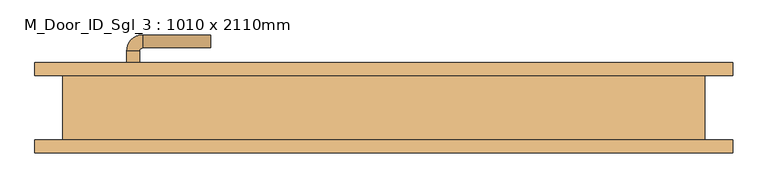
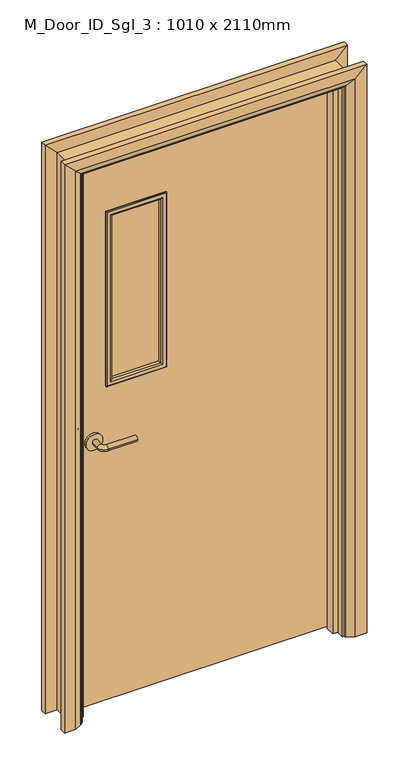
"""IFC4 building model written with IfcOpenShell, lengths in millimetres: door geometry, M_Door_ID_Sgl_3 : 1010 x 2110mm."""

from ifc_helpers import new_model, si_unit, point, frame, frame_2d, origin, place, context, project, spatial, polyline, circle_curve, ellipse_curve, trimmed, segment, composite_curve, outline, extrude, faceted_brep, source, transform, mapped, element, save
from ifc_brep_helpers import plane_surface, cylinder_surface, revolved_surface, advanced_brep


def m_door_id_sgl_3_1010_x_2110mm_8d6b14ea(model_context):
    return source(origin(), model_context, "Body", "SolidModel", [
        advanced_brep(
        [(-398.0, 4.0, 1000.0), (-378.0, 4.0, 1000.0), (-378.0, -26.0, 1000.0), (-398.0, -26.0, 1000.0), (-373.0, -31.0, 1000.0), (-373.0, -51.0, 1000.0), (-268.0, -51.0, 1000.0), (-268.0, -31.0, 1000.0)],
        [
            (0, 1, circle_curve(frame((-388.0, 4.0, 1000.0), z_axis=(0.0, 1.0, 0.0), x_axis=(1.0, 0.0, 0.0)), 10.0)),
            (1, 0, circle_curve(frame((-388.0, 4.0, 1000.0), z_axis=(0.0, 1.0, 0.0), x_axis=(1.0, 0.0, 0.0)), 10.0)),
            (1, 2),
            (2, 3, circle_curve(frame((-388.0, -26.0, 1000.0), z_axis=(0.0, 1.0, 0.0), x_axis=(1.0, 0.0, 0.0)), 10.0)),
            (3, 0),
            (3, 2, circle_curve(frame((-388.0, -26.0, 1000.0), z_axis=(0.0, 1.0, 0.0), x_axis=(1.0, 0.0, 0.0)), 10.0)),
            (4, 5, circle_curve(frame((-373.0, -41.0, 1000.0), z_axis=(-1.0, 0.0, 0.0), x_axis=(0.0, 1.0, 0.0)), 10.0)),
            (5, 3, circle_curve(frame((-373.0, -26.0, 1000.0), z_axis=(0.0, 0.0, -1.0), x_axis=(-1.0, 0.0, 0.0)), 25.0)),
            (2, 4, circle_curve(frame((-373.0, -26.0, 1000.0), z_axis=(0.0, 0.0, 1.0), x_axis=(-1.0, 0.0, 0.0)), 5.0)),
            (5, 4, circle_curve(frame((-373.0, -41.0, 1000.0), z_axis=(-1.0, 0.0, 0.0), x_axis=(0.0, 1.0, 0.0)), 10.0)),
            (6, 7, circle_curve(frame((-268.0, -41.0, 1000.0), z_axis=(1.0, 0.0, 0.0), x_axis=(0.0, 1.0, 0.0)), 10.0)),
            (7, 6, circle_curve(frame((-268.0, -41.0, 1000.0), z_axis=(1.0, 0.0, 0.0), x_axis=(0.0, 1.0, 0.0)), 10.0)),
            (4, 7),
            (6, 5),
        ],
        [
            plane_surface(frame((-388.0, 4.0, 1000.0), z_axis=(0.0, 1.0, 0.0), x_axis=(0.0, 0.0, 1.0))),
            cylinder_surface(frame((-388.0, 4.0, 1000.0), z_axis=(0.0, 1.0, 0.0), x_axis=(1.0, 0.0, 0.0)), 10.0),
            revolved_surface(trimmed(ellipse_curve(frame((-388.0, -26.0, 1000.0), z_axis=(0.0, -1.0, 0.0), x_axis=(1.0, 0.0, 0.0)), 10.0, 10.0), [point((-398.0, -26.0, 1000.0))], [point((-378.0, -26.0, 1000.0))], True, "CARTESIAN"), (-373.0, -26.0, 1000.0), (0.0, 0.0, -1.0)),
            revolved_surface(trimmed(ellipse_curve(frame((-388.0, -26.0, 1000.0), z_axis=(0.0, -1.0, 0.0), x_axis=(1.0, 0.0, 0.0)), 10.0, 10.0), [point((-378.0, -26.0, 1000.0))], [point((-398.0, -26.0, 1000.0))], True, "CARTESIAN"), (-373.0, -26.0, 1000.0), (0.0, 0.0, -1.0)),
            plane_surface(frame((-268.0, -41.0, 1000.0), z_axis=(1.0, 0.0, 0.0), x_axis=(0.0, 0.0, 1.0))),
            cylinder_surface(frame((-373.0, -41.0, 1000.0), z_axis=(-1.0, 0.0, 0.0), x_axis=(0.0, 1.0, 0.0)), 10.0),
        ],
        [
            (0, [[1, 2]]),
            (1, [[3, 4, 5, -2]]),
            (1, [[-5, 6, -3, -1]]),
            (2, [[7, 8, -4, 9]]),
            (3, [[10, -9, -6, -8]]),
            (4, [[11, 12]]),
            (5, [[13, -11, 14, -7]]),
            (5, [[-14, -12, -13, -10]]),
        ],
    ),
        extrude(outline(composite_curve([segment(trimmed(circle_curve(frame_2d((1000.0, -390.5)), 30.0), [point((1000.0, -420.5))], [point((1000.0, -360.5))], False, "CARTESIAN"), True, "CONTINUOUS"), segment(trimmed(circle_curve(frame_2d((1000.0, -390.5)), 30.0), [point((1000.0, -360.5))], [point((1000.0, -420.5))], False, "CARTESIAN"), True, "CONTINUOUS")], self_intersect=False)), frame((0.0, 4.0, 0.0), z_axis=(0.0, 1.0, 0.0), x_axis=(0.0, 0.0, 1.0)), (0.0, 0.0, 1.0), 8.0),
        advanced_brep(
        [(-398.0, 58.0, 1000.0), (-378.0, 58.0, 1000.0), (-398.0, 88.0, 1000.0), (-378.0, 88.0, 1000.0), (-373.0, 93.0, 1000.0), (-373.0, 113.0, 1000.0), (-268.0, 113.0, 1000.0), (-268.0, 93.0, 1000.0)],
        [
            (0, 1, circle_curve(frame((-388.0, 58.0, 1000.0), z_axis=(0.0, -1.0, 0.0), x_axis=(1.0, 0.0, 0.0)), 10.0)),
            (1, 0, circle_curve(frame((-388.0, 58.0, 1000.0), z_axis=(0.0, -1.0, 0.0), x_axis=(1.0, 0.0, 0.0)), 10.0)),
            (0, 2),
            (2, 3, circle_curve(frame((-388.0, 88.0, 1000.0), z_axis=(0.0, -1.0, 0.0), x_axis=(1.0, 0.0, 0.0)), 10.0)),
            (3, 1),
            (3, 2, circle_curve(frame((-388.0, 88.0, 1000.0), z_axis=(0.0, -1.0, 0.0), x_axis=(1.0, 0.0, 0.0)), 10.0)),
            (4, 3, circle_curve(frame((-373.0, 88.0, 1000.0), z_axis=(0.0, 0.0, 1.0), x_axis=(-1.0, 0.0, 0.0)), 5.0)),
            (2, 5, circle_curve(frame((-373.0, 88.0, 1000.0), z_axis=(0.0, 0.0, -1.0), x_axis=(-1.0, 0.0, 0.0)), 25.0)),
            (5, 4, circle_curve(frame((-373.0, 103.0, 1000.0), z_axis=(-1.0, 0.0, 0.0), x_axis=(0.0, -1.0, 0.0)), 10.0)),
            (4, 5, circle_curve(frame((-373.0, 103.0, 1000.0), z_axis=(-1.0, 0.0, 0.0), x_axis=(0.0, -1.0, 0.0)), 10.0)),
            (6, 7, circle_curve(frame((-268.0, 103.0, 1000.0), z_axis=(1.0, 0.0, 0.0), x_axis=(0.0, -1.0, 0.0)), 10.0)),
            (7, 6, circle_curve(frame((-268.0, 103.0, 1000.0), z_axis=(1.0, 0.0, 0.0), x_axis=(0.0, -1.0, 0.0)), 10.0)),
            (5, 6),
            (7, 4),
        ],
        [
            plane_surface(frame((-388.0, 58.0, 1000.0), z_axis=(0.0, -1.0, 0.0), x_axis=(0.0, 0.0, 1.0))),
            cylinder_surface(frame((-388.0, 58.0, 1000.0), z_axis=(0.0, -1.0, 0.0), x_axis=(1.0, 0.0, 0.0)), 10.0),
            revolved_surface(trimmed(ellipse_curve(frame((-388.0, 88.0, 1000.0), z_axis=(0.0, -1.0, 0.0), x_axis=(1.0, 0.0, 0.0)), 10.0, 10.0), [point((-398.0, 88.0, 1000.0))], [point((-378.0, 88.0, 1000.0))], True, "CARTESIAN"), (-373.0, 88.0, 1000.0), (0.0, 0.0, -1.0)),
            revolved_surface(trimmed(ellipse_curve(frame((-388.0, 88.0, 1000.0), z_axis=(0.0, -1.0, 0.0), x_axis=(1.0, 0.0, 0.0)), 10.0, 10.0), [point((-378.0, 88.0, 1000.0))], [point((-398.0, 88.0, 1000.0))], True, "CARTESIAN"), (-373.0, 88.0, 1000.0), (0.0, 0.0, -1.0)),
            plane_surface(frame((-268.0, 103.0, 1000.0), z_axis=(1.0, 0.0, 0.0), x_axis=(0.0, 0.0, 1.0))),
            cylinder_surface(frame((-373.0, 103.0, 1000.0), z_axis=(-1.0, 0.0, 0.0), x_axis=(0.0, -1.0, 0.0)), 10.0),
        ],
        [
            (0, [[1, 2]]),
            (1, [[-1, 3, 4, 5]]),
            (1, [[-2, -5, 6, -3]]),
            (2, [[7, -4, 8, 9]]),
            (3, [[-8, -6, -7, 10]]),
            (4, [[11, 12]]),
            (5, [[-9, 13, -12, 14]]),
            (5, [[-10, -14, -11, -13]]),
        ],
    ),
        extrude(outline(composite_curve([segment(trimmed(circle_curve(frame_2d((1000.0, -390.5)), 30.0), [point((1000.0, -420.5))], [point((1000.0, -360.5))], False, "CARTESIAN"), True, "CONTINUOUS"), segment(trimmed(circle_curve(frame_2d((1000.0, -390.5)), 30.0), [point((1000.0, -360.5))], [point((1000.0, -420.5))], False, "CARTESIAN"), True, "CONTINUOUS")], self_intersect=False)), frame((0.0, 50.0, 0.0), z_axis=(0.0, 1.0, 0.0), x_axis=(0.0, 0.0, 1.0)), (0.0, 0.0, 1.0), 8.0),
        extrude(outline(polyline([(2068.0, -463.0), (8.0, -463.0), (8.0, 463.0), (2068.0, 463.0), (2068.0, -463.0)]), holes=[polyline([(1843.0, -138.0), (1200.0, -138.0), (1200.0, -338.0), (1843.0, -338.0), (1843.0, -138.0)])]), frame((0.0, 12.0, 0.0), z_axis=(0.0, 1.0, 0.0), x_axis=(0.0, 0.0, 1.0)), (0.0, 0.0, 1.0), 38.0),
        faceted_brep([(-465.0, 50.0, 0.0), (-465.0, -50.0, 0.0), (-497.0, -50.0, 0.0), (-497.0, 50.0, 0.0), (-465.0, 50.0, 2070.0), (-465.0, -50.0, 2070.0), (-497.0, -50.0, 2102.0), (-497.0, 50.0, 2102.0), (465.0, 50.0, 0.0), (497.0, 50.0, 0.0), (497.0, -50.0, 0.0), (465.0, -50.0, 0.0), (465.0, 50.0, 2070.0), (497.0, 50.0, 2102.0), (497.0, -50.0, 2102.0), (465.0, -50.0, 2070.0)], [[[0, 1, 2, 3]], [[1, 0, 4, 5]], [[2, 1, 5, 6]], [[3, 2, 6, 7]], [[0, 3, 7, 4]], [[8, 9, 10, 11]], [[12, 13, 9, 8]], [[13, 14, 10, 9]], [[14, 15, 11, 10]], [[15, 12, 8, 11]], [[5, 4, 12, 15]], [[6, 5, 15, 14]], [[7, 6, 14, 13]], [[4, 7, 13, 12]]]),
        advanced_brep(
        [(-540.0, -70.0, 0.0), (-540.0, -50.0, 0.0), (-470.0, -50.0, 0.0), (-474.0, -56.0, 0.0), (-500.0, -70.0, 0.0), (-540.0, -70.0, 2145.0), (-540.0, -50.0, 2145.0), (-470.0, -50.0, 2075.0), (-474.0, -56.0, 2079.0), (-500.0, -70.0, 2105.0), (540.0, -70.0, 0.0), (500.0, -70.0, 0.0), (474.0, -56.0, 0.0), (470.0, -50.0, 0.0), (540.0, -50.0, 0.0), (540.0, -70.0, 2145.0), (500.0, -70.0, 2105.0), (474.0, -56.0, 2079.0), (470.0, -50.0, 2075.0), (540.0, -50.0, 2145.0)],
        [
            (0, 1),
            (1, 2),
            (2, 3, circle_curve(frame((-478.0, -49.0, 0.0), z_axis=(0.0, 0.0, -1.0), x_axis=(-1.0, 0.0, 0.0)), 8.0622577)),
            (3, 4),
            (4, 0),
            (0, 5),
            (5, 6),
            (6, 1),
            (6, 7),
            (7, 2),
            (7, 8, ellipse_curve(frame((-478.0, -49.0, 2083.0), z_axis=(-0.7071067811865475, 0.0, -0.7071067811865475), x_axis=(0.7071067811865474, 0.0, -0.7071067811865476)), 11.4017543, 8.0622577)),
            (8, 3),
            (8, 9),
            (9, 4),
            (9, 5),
            (10, 11),
            (11, 12),
            (12, 13, circle_curve(frame((478.0, -49.0, 0.0), z_axis=(0.0, 0.0, -1.0), x_axis=(1.0, 0.0, 0.0)), 8.0622577)),
            (13, 14),
            (14, 10),
            (15, 16),
            (16, 11),
            (10, 15),
            (16, 17),
            (17, 12),
            (17, 18, ellipse_curve(frame((478.0, -49.0, 2083.0), z_axis=(0.7071067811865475, 0.0, -0.7071067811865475), x_axis=(0.7071067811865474, 0.0, 0.7071067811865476)), 11.4017543, 8.0622577)),
            (18, 13),
            (18, 19),
            (19, 14),
            (19, 15),
            (5, 15),
            (19, 6),
            (18, 7),
            (17, 8),
            (16, 9),
        ],
        [
            plane_surface(frame((-470.0, -122.8010989, 0.0), z_axis=(0.0, 0.0, -1.0), x_axis=(1.0, 0.0, 0.0))),
            plane_surface(frame((-540.0, -70.0, 0.0), z_axis=(-1.0, 0.0, 0.0), x_axis=(0.0, 0.0, 1.0))),
            plane_surface(frame((-540.0, -50.0, 0.0), z_axis=(0.0, 1.0, 0.0), x_axis=(0.0, 0.0, 1.0))),
            cylinder_surface(frame((-478.0, -49.0, 0.0), z_axis=(0.0, 0.0, -1.0), x_axis=(-1.0, 0.0, 0.0)), 8.0622577),
            plane_surface(frame((-474.0, -56.0, 0.0), z_axis=(0.4740998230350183, -0.8804710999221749, 0.0), x_axis=(0.0, 0.0, 1.0))),
            plane_surface(frame((-500.0, -70.0, 0.0), z_axis=(0.0, -1.0, 0.0), x_axis=(0.0, 0.0, 1.0))),
            plane_surface(frame((470.0, -122.8010989, 0.0), z_axis=(0.0, 0.0, -1.0), x_axis=(-1.0, 0.0, 0.0))),
            plane_surface(frame((500.0, -70.0, 2105.0), z_axis=(0.0, -1.0, 0.0), x_axis=(0.0, 0.0, -1.0))),
            plane_surface(frame((474.0, -56.0, 2079.0), z_axis=(-0.4740998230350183, -0.8804710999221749, 0.0), x_axis=(0.0, 0.0, -1.0))),
            cylinder_surface(frame((478.0, -49.0, 2075.0), z_axis=(0.0, 0.0, 1.0), x_axis=(1.0, 0.0, 0.0)), 8.0622577),
            plane_surface(frame((540.0, -50.0, 2145.0), z_axis=(0.0, 1.0, 0.0), x_axis=(0.0, 0.0, -1.0))),
            plane_surface(frame((540.0, -70.0, 2145.0), z_axis=(1.0, 0.0, 0.0), x_axis=(0.0, 0.0, -1.0))),
            plane_surface(frame((-540.0, -70.0, 2145.0), z_axis=(0.0, 0.0, 1.0), x_axis=(1.0, 0.0, 0.0))),
            plane_surface(frame((-540.0, -50.0, 2145.0), z_axis=(0.0, 1.0, 0.0), x_axis=(1.0, 0.0, 0.0))),
            cylinder_surface(frame((-470.0, -49.0, 2083.0), z_axis=(-1.0, 0.0, 0.0), x_axis=(0.0, 0.0, 1.0)), 8.0622577),
            plane_surface(frame((-474.0, -56.0, 2079.0), z_axis=(0.0, -0.8804710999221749, -0.4740998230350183), x_axis=(1.0, 0.0, 0.0))),
            plane_surface(frame((-500.0, -70.0, 2105.0), z_axis=(0.0, -1.0, 0.0), x_axis=(1.0, 0.0, 0.0))),
        ],
        [
            (0, [[1, 2, 3, 4, 5]]),
            (1, [[-1, 6, 7, 8]]),
            (2, [[-2, -8, 9, 10]]),
            (3, [[-3, -10, 11, 12]]),
            (4, [[-4, -12, 13, 14]]),
            (5, [[-5, -14, 15, -6]]),
            (6, [[16, 17, 18, 19, 20]]),
            (7, [[21, 22, -16, 23]]),
            (8, [[24, 25, -17, -22]]),
            (9, [[26, 27, -18, -25]]),
            (10, [[28, 29, -19, -27]]),
            (11, [[30, -23, -20, -29]]),
            (12, [[-7, 31, -30, 32]]),
            (13, [[-9, -32, -28, 33]]),
            (14, [[-11, -33, -26, 34]]),
            (15, [[-13, -34, -24, 35]]),
            (16, [[-15, -35, -21, -31]]),
        ],
    ),
        advanced_brep(
        [(-540.0, 70.0, 0.0), (-500.0, 70.0, 0.0), (-474.0, 56.0, 0.0), (-470.0, 50.0, 0.0), (-540.0, 50.0, 0.0), (-540.0, 70.0, 2145.0), (-500.0, 70.0, 2105.0), (-474.0, 56.0, 2079.0), (-470.0, 50.0, 2075.0), (-540.0, 50.0, 2145.0), (540.0, 70.0, 0.0), (540.0, 50.0, 0.0), (470.0, 50.0, 0.0), (474.0, 56.0, 0.0), (500.0, 70.0, 0.0), (540.0, 70.0, 2145.0), (540.0, 50.0, 2145.0), (470.0, 50.0, 2075.0), (474.0, 56.0, 2079.0), (500.0, 70.0, 2105.0)],
        [
            (0, 1),
            (1, 2),
            (2, 3, circle_curve(frame((-478.0, 49.0, 0.0), z_axis=(0.0, 0.0, -1.0), x_axis=(-1.0, 0.0, 0.0)), 8.0622577)),
            (3, 4),
            (4, 0),
            (0, 5),
            (5, 6),
            (6, 1),
            (6, 7),
            (7, 2),
            (7, 8, ellipse_curve(frame((-478.0, 49.0, 2083.0), z_axis=(-0.7071067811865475, 0.0, -0.7071067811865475), x_axis=(0.7071067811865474, 0.0, -0.7071067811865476)), 11.4017543, 8.0622577)),
            (8, 3),
            (8, 9),
            (9, 4),
            (9, 5),
            (10, 11),
            (11, 12),
            (12, 13, circle_curve(frame((478.0, 49.0, 0.0), z_axis=(0.0, 0.0, -1.0), x_axis=(1.0, 0.0, 0.0)), 8.0622577)),
            (13, 14),
            (14, 10),
            (15, 16),
            (16, 11),
            (10, 15),
            (16, 17),
            (17, 12),
            (17, 18, ellipse_curve(frame((478.0, 49.0, 2083.0), z_axis=(0.7071067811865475, 0.0, -0.7071067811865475), x_axis=(0.7071067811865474, 0.0, 0.7071067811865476)), 11.4017543, 8.0622577)),
            (18, 13),
            (18, 19),
            (19, 14),
            (19, 15),
            (5, 15),
            (19, 6),
            (18, 7),
            (17, 8),
            (16, 9),
        ],
        [
            plane_surface(frame((-470.0, -22.8010989, 0.0), z_axis=(0.0, 0.0, -1.0), x_axis=(1.0, 0.0, 0.0))),
            plane_surface(frame((-540.0, 70.0, 0.0), z_axis=(0.0, 1.0, 0.0), x_axis=(0.0, 0.0, 1.0))),
            plane_surface(frame((-500.0, 70.0, 0.0), z_axis=(0.4740998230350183, 0.8804710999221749, 0.0), x_axis=(0.0, 0.0, 1.0))),
            cylinder_surface(frame((-478.0, 49.0, 0.0), z_axis=(0.0, 0.0, -1.0), x_axis=(-1.0, 0.0, 0.0)), 8.0622577),
            plane_surface(frame((-470.0, 50.0, 0.0), z_axis=(0.0, -1.0, 0.0), x_axis=(0.0, 0.0, 1.0))),
            plane_surface(frame((-540.0, 50.0, 0.0), z_axis=(-1.0, 0.0, 0.0), x_axis=(0.0, 0.0, 1.0))),
            plane_surface(frame((470.0, -22.8010989, 0.0), z_axis=(0.0, 0.0, -1.0), x_axis=(-1.0, 0.0, 0.0))),
            plane_surface(frame((540.0, 50.0, 2145.0), z_axis=(1.0, 0.0, 0.0), x_axis=(0.0, 0.0, -1.0))),
            plane_surface(frame((470.0, 50.0, 2075.0), z_axis=(0.0, -1.0, 0.0), x_axis=(0.0, 0.0, -1.0))),
            cylinder_surface(frame((478.0, 49.0, 2075.0), z_axis=(0.0, 0.0, 1.0), x_axis=(1.0, 0.0, 0.0)), 8.0622577),
            plane_surface(frame((500.0, 70.0, 2105.0), z_axis=(-0.4740998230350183, 0.8804710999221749, 0.0), x_axis=(0.0, 0.0, -1.0))),
            plane_surface(frame((540.0, 70.0, 2145.0), z_axis=(0.0, 1.0, 0.0), x_axis=(0.0, 0.0, -1.0))),
            plane_surface(frame((-540.0, 70.0, 2145.0), z_axis=(0.0, 1.0, 0.0), x_axis=(1.0, 0.0, 0.0))),
            plane_surface(frame((-500.0, 70.0, 2105.0), z_axis=(0.0, 0.8804710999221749, -0.4740998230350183), x_axis=(1.0, 0.0, 0.0))),
            cylinder_surface(frame((-470.0, 49.0, 2083.0), z_axis=(-1.0, 0.0, 0.0), x_axis=(0.0, 0.0, 1.0)), 8.0622577),
            plane_surface(frame((-470.0, 50.0, 2075.0), z_axis=(0.0, -1.0, 0.0), x_axis=(1.0, 0.0, 0.0))),
            plane_surface(frame((-540.0, 50.0, 2145.0), z_axis=(0.0, 0.0, 1.0), x_axis=(1.0, 0.0, 0.0))),
        ],
        [
            (0, [[1, 2, 3, 4, 5]]),
            (1, [[-1, 6, 7, 8]]),
            (2, [[-2, -8, 9, 10]]),
            (3, [[-3, -10, 11, 12]]),
            (4, [[-4, -12, 13, 14]]),
            (5, [[-5, -14, 15, -6]]),
            (6, [[16, 17, 18, 19, 20]]),
            (7, [[21, 22, -16, 23]]),
            (8, [[24, 25, -17, -22]]),
            (9, [[26, 27, -18, -25]]),
            (10, [[28, 29, -19, -27]]),
            (11, [[30, -23, -20, -29]]),
            (12, [[-7, 31, -30, 32]]),
            (13, [[-9, -32, -28, 33]]),
            (14, [[-11, -33, -26, 34]]),
            (15, [[-13, -34, -24, 35]]),
            (16, [[-15, -35, -21, -31]]),
        ],
    ),
        extrude(outline(polyline([(0.0, -465.0), (0.0, -446.0), (2051.0, -446.0), (2051.0, 446.0), (0.0, 446.0), (0.0, 465.0), (2070.0, 465.0), (2070.0, -465.0), (0.0, -465.0)])), frame((0.0, -22.0, 0.0), z_axis=(0.0, 1.0, 0.0), x_axis=(0.0, 0.0, 1.0)), (0.0, 0.0, 1.0), 32.0),
        advanced_brep(
        [(-130.0, 54.0, 1851.0), (-130.0, 50.0, 1851.0), (-130.0, 50.0, 1192.0), (-130.0, 54.0, 1192.0), (-132.0, 56.0, 1849.0), (-132.0, 56.0, 1194.0), (-150.0, 51.0, 1831.0), (-145.0, 56.0, 1836.0), (-145.0, 56.0, 1207.0), (-150.0, 51.0, 1212.0), (-150.0, 40.0, 1831.0), (-150.0, 40.0, 1212.0), (-138.0, 50.0, 1843.0), (-138.0, 40.0, 1843.0), (-138.0, 40.0, 1200.0), (-138.0, 50.0, 1200.0), (-346.0, 50.0, 1192.0), (-346.0, 54.0, 1192.0), (-344.0, 56.0, 1194.0), (-331.0, 56.0, 1207.0), (-326.0, 51.0, 1212.0), (-326.0, 40.0, 1212.0), (-338.0, 40.0, 1200.0), (-338.0, 50.0, 1200.0), (-346.0, 50.0, 1851.0), (-346.0, 54.0, 1851.0), (-344.0, 56.0, 1849.0), (-331.0, 56.0, 1836.0), (-326.0, 51.0, 1831.0), (-326.0, 40.0, 1831.0), (-338.0, 40.0, 1843.0), (-338.0, 50.0, 1843.0)],
        [
            (0, 1),
            (1, 2),
            (2, 3),
            (3, 0),
            (4, 0, ellipse_curve(frame((-132.0, 54.0, 1849.0), z_axis=(0.7071067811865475, 0.0, -0.7071067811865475), x_axis=(0.7071067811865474, 0.0, 0.7071067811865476)), 2.8284271, 2.0)),
            (3, 5, ellipse_curve(frame((-132.0, 54.0, 1194.0), z_axis=(0.7071067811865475, 0.0, 0.7071067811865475), x_axis=(-0.7071067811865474, 0.0, 0.7071067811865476)), 2.8284271, 2.0)),
            (5, 4),
            (6, 7, ellipse_curve(frame((-145.0, 51.0, 1836.0), z_axis=(0.7071067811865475, 0.0, -0.7071067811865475), x_axis=(0.7071067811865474, 0.0, 0.7071067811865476)), 7.0710678, 5.0)),
            (7, 8),
            (8, 9, ellipse_curve(frame((-145.0, 51.0, 1207.0), z_axis=(0.7071067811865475, 0.0, 0.7071067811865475), x_axis=(-0.7071067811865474, 0.0, 0.7071067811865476)), 7.0710678, 5.0)),
            (9, 6),
            (10, 6),
            (9, 11),
            (11, 10),
            (12, 13),
            (13, 14),
            (14, 15),
            (15, 12),
            (2, 16),
            (16, 17),
            (17, 3),
            (17, 18, ellipse_curve(frame((-344.0, 54.0, 1194.0), z_axis=(0.7071067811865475, 0.0, -0.7071067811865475), x_axis=(0.7071067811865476, 0.0, 0.7071067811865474)), 2.8284271, 2.0)),
            (18, 5),
            (8, 19),
            (19, 20, ellipse_curve(frame((-331.0, 51.0, 1207.0), z_axis=(0.7071067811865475, 0.0, -0.7071067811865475), x_axis=(0.7071067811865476, 0.0, 0.7071067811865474)), 7.0710678, 5.0)),
            (20, 9),
            (20, 21),
            (21, 11),
            (14, 22),
            (22, 23),
            (23, 15),
            (16, 24),
            (24, 25),
            (25, 17),
            (25, 26, ellipse_curve(frame((-344.0, 54.0, 1849.0), z_axis=(-0.7071067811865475, 0.0, -0.7071067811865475), x_axis=(0.7071067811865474, 0.0, -0.7071067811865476)), 2.8284271, 2.0)),
            (26, 18),
            (19, 27),
            (27, 28, ellipse_curve(frame((-331.0, 51.0, 1836.0), z_axis=(-0.7071067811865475, 0.0, -0.7071067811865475), x_axis=(0.7071067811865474, 0.0, -0.7071067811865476)), 7.0710678, 5.0)),
            (28, 20),
            (28, 29),
            (29, 21),
            (22, 30),
            (30, 31),
            (31, 23),
            (24, 1),
            (0, 25),
            (4, 26),
            (7, 27),
            (6, 28),
            (10, 29),
            (13, 30),
            (12, 31),
        ],
        [
            plane_surface(frame((-130.0, 50.0, 1851.0), z_axis=(1.0, 0.0, 0.0), x_axis=(0.0, 0.0, -1.0))),
            cylinder_surface(frame((-132.0, 54.0, 1843.0), z_axis=(0.0, 0.0, 1.0), x_axis=(1.0, 0.0, 0.0)), 2.0),
            cylinder_surface(frame((-145.0, 51.0, 1843.0), z_axis=(0.0, 0.0, 1.0), x_axis=(1.0, 0.0, 0.0)), 5.0),
            plane_surface(frame((-150.0, 51.0, 1831.0), z_axis=(-1.0, 0.0, 0.0), x_axis=(0.0, 0.0, -1.0))),
            plane_surface(frame((-138.0, 40.0, 1843.0), z_axis=(1.0, 0.0, 0.0), x_axis=(0.0, 0.0, -1.0))),
            plane_surface(frame((-130.0, 50.0, 1192.0), z_axis=(0.0, 0.0, -1.0), x_axis=(-1.0, 0.0, 0.0))),
            cylinder_surface(frame((-138.0, 54.0, 1194.0), z_axis=(1.0, 0.0, 0.0), x_axis=(0.0, 0.0, -1.0)), 2.0),
            cylinder_surface(frame((-138.0, 51.0, 1207.0), z_axis=(1.0, 0.0, 0.0), x_axis=(0.0, 0.0, -1.0)), 5.0),
            plane_surface(frame((-150.0, 51.0, 1212.0), z_axis=(0.0, 0.0, 1.0), x_axis=(-1.0, 0.0, 0.0))),
            plane_surface(frame((-138.0, 40.0, 1200.0), z_axis=(0.0, 0.0, -1.0), x_axis=(-1.0, 0.0, 0.0))),
            plane_surface(frame((-346.0, 50.0, 1192.0), z_axis=(-1.0, 0.0, 0.0), x_axis=(0.0, 0.0, 1.0))),
            cylinder_surface(frame((-344.0, 54.0, 1200.0), z_axis=(0.0, 0.0, -1.0), x_axis=(-1.0, 0.0, 0.0)), 2.0),
            cylinder_surface(frame((-331.0, 51.0, 1200.0), z_axis=(0.0, 0.0, -1.0), x_axis=(-1.0, 0.0, 0.0)), 5.0),
            plane_surface(frame((-326.0, 51.0, 1212.0), z_axis=(1.0, 0.0, 0.0), x_axis=(0.0, 0.0, 1.0))),
            plane_surface(frame((-338.0, 40.0, 1200.0), z_axis=(-1.0, 0.0, 0.0), x_axis=(0.0, 0.0, 1.0))),
            plane_surface(frame((-346.0, 50.0, 1851.0), z_axis=(0.0, 0.0, 1.0), x_axis=(1.0, 0.0, 0.0))),
            cylinder_surface(frame((-338.0, 54.0, 1849.0), z_axis=(-1.0, 0.0, 0.0), x_axis=(0.0, 0.0, 1.0)), 2.0),
            plane_surface(frame((-344.0, 56.0, 1849.0), z_axis=(0.0, 1.0, 0.0), x_axis=(1.0, 0.0, 0.0))),
            cylinder_surface(frame((-338.0, 51.0, 1836.0), z_axis=(-1.0, 0.0, 0.0), x_axis=(0.0, 0.0, 1.0)), 5.0),
            plane_surface(frame((-326.0, 51.0, 1831.0), z_axis=(0.0, 0.0, -1.0), x_axis=(1.0, 0.0, 0.0))),
            plane_surface(frame((-326.0, 40.0, 1831.0), z_axis=(0.0, -1.0, 0.0), x_axis=(1.0, 0.0, 0.0))),
            plane_surface(frame((-338.0, 40.0, 1843.0), z_axis=(0.0, 0.0, 1.0), x_axis=(1.0, 0.0, 0.0))),
            plane_surface(frame((-338.0, 50.0, 1843.0), z_axis=(0.0, -1.0, 0.0), x_axis=(1.0, 0.0, 0.0))),
        ],
        [
            (0, [[1, 2, 3, 4]]),
            (1, [[5, -4, 6, 7]]),
            (2, [[8, 9, 10, 11]]),
            (3, [[12, -11, 13, 14]]),
            (4, [[15, 16, 17, 18]]),
            (5, [[-3, 19, 20, 21]]),
            (6, [[-6, -21, 22, 23]]),
            (7, [[-10, 24, 25, 26]]),
            (8, [[-13, -26, 27, 28]]),
            (9, [[-17, 29, 30, 31]]),
            (10, [[-20, 32, 33, 34]]),
            (11, [[-22, -34, 35, 36]]),
            (12, [[-25, 37, 38, 39]]),
            (13, [[-27, -39, 40, 41]]),
            (14, [[-30, 42, 43, 44]]),
            (15, [[-33, 45, -1, 46]]),
            (16, [[-35, -46, -5, 47]]),
            (17, [[-23, -36, -47, -7], [48, -37, -24, -9]]),
            (18, [[-38, -48, -8, 49]]),
            (19, [[-40, -49, -12, 50]]),
            (20, [[51, -42, -29, -16], [-28, -41, -50, -14]]),
            (21, [[-43, -51, -15, 52]]),
            (22, [[-45, -32, -19, -2], [-31, -44, -52, -18]]),
        ],
    ),
        advanced_brep(
        [(-138.0, 22.0, 1843.0), (-138.0, 12.0, 1843.0), (-138.0, 12.0, 1200.0), (-138.0, 22.0, 1200.0), (-150.0, 11.0, 1831.0), (-150.0, 22.0, 1831.0), (-150.0, 22.0, 1212.0), (-150.0, 11.0, 1212.0), (-145.0, 6.0, 1836.0), (-145.0, 6.0, 1207.0), (-130.0, 8.0, 1851.0), (-132.0, 6.0, 1849.0), (-132.0, 6.0, 1194.0), (-130.0, 8.0, 1192.0), (-130.0, 12.0, 1851.0), (-130.0, 12.0, 1192.0), (-338.0, 12.0, 1200.0), (-338.0, 22.0, 1200.0), (-326.0, 22.0, 1212.0), (-326.0, 11.0, 1212.0), (-331.0, 6.0, 1207.0), (-344.0, 6.0, 1194.0), (-346.0, 8.0, 1192.0), (-346.0, 12.0, 1192.0), (-338.0, 12.0, 1843.0), (-338.0, 22.0, 1843.0), (-326.0, 22.0, 1831.0), (-326.0, 11.0, 1831.0), (-331.0, 6.0, 1836.0), (-344.0, 6.0, 1849.0), (-346.0, 8.0, 1851.0), (-346.0, 12.0, 1851.0)],
        [
            (0, 1),
            (1, 2),
            (2, 3),
            (3, 0),
            (4, 5),
            (5, 6),
            (6, 7),
            (7, 4),
            (8, 4, ellipse_curve(frame((-145.0, 11.0, 1836.0), z_axis=(0.7071067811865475, 0.0, -0.7071067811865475), x_axis=(0.7071067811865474, 0.0, 0.7071067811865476)), 7.0710678, 5.0)),
            (7, 9, ellipse_curve(frame((-145.0, 11.0, 1207.0), z_axis=(0.7071067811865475, 0.0, 0.7071067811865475), x_axis=(-0.7071067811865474, 0.0, 0.7071067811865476)), 7.0710678, 5.0)),
            (9, 8),
            (10, 11, ellipse_curve(frame((-132.0, 8.0, 1849.0), z_axis=(0.7071067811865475, 0.0, -0.7071067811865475), x_axis=(0.7071067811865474, 0.0, 0.7071067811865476)), 2.8284271, 2.0)),
            (11, 12),
            (12, 13, ellipse_curve(frame((-132.0, 8.0, 1194.0), z_axis=(0.7071067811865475, 0.0, 0.7071067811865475), x_axis=(-0.7071067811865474, 0.0, 0.7071067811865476)), 2.8284271, 2.0)),
            (13, 10),
            (14, 10),
            (13, 15),
            (15, 14),
            (2, 16),
            (16, 17),
            (17, 3),
            (6, 18),
            (18, 19),
            (19, 7),
            (19, 20, ellipse_curve(frame((-331.0, 11.0, 1207.0), z_axis=(0.7071067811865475, 0.0, -0.7071067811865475), x_axis=(0.7071067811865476, 0.0, 0.7071067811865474)), 7.0710678, 5.0)),
            (20, 9),
            (12, 21),
            (21, 22, ellipse_curve(frame((-344.0, 8.0, 1194.0), z_axis=(0.7071067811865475, 0.0, -0.7071067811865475), x_axis=(0.7071067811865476, 0.0, 0.7071067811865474)), 2.8284271, 2.0)),
            (22, 13),
            (22, 23),
            (23, 15),
            (16, 24),
            (24, 25),
            (25, 17),
            (18, 26),
            (26, 27),
            (27, 19),
            (27, 28, ellipse_curve(frame((-331.0, 11.0, 1836.0), z_axis=(-0.7071067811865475, 0.0, -0.7071067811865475), x_axis=(0.7071067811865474, 0.0, -0.7071067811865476)), 7.0710678, 5.0)),
            (28, 20),
            (21, 29),
            (29, 30, ellipse_curve(frame((-344.0, 8.0, 1849.0), z_axis=(-0.7071067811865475, 0.0, -0.7071067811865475), x_axis=(0.7071067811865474, 0.0, -0.7071067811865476)), 2.8284271, 2.0)),
            (30, 22),
            (30, 31),
            (31, 23),
            (31, 14),
            (1, 24),
            (0, 25),
            (5, 26),
            (4, 27),
            (8, 28),
            (11, 29),
            (10, 30),
        ],
        [
            plane_surface(frame((-138.0, 12.0, 1843.0), z_axis=(1.0, 0.0, 0.0), x_axis=(0.0, 0.0, -1.0))),
            plane_surface(frame((-150.0, 22.0, 1831.0), z_axis=(-1.0, 0.0, 0.0), x_axis=(0.0, 0.0, -1.0))),
            cylinder_surface(frame((-145.0, 11.0, 1843.0), z_axis=(0.0, 0.0, 1.0), x_axis=(1.0, 0.0, 0.0)), 5.0),
            cylinder_surface(frame((-132.0, 8.0, 1843.0), z_axis=(0.0, 0.0, 1.0), x_axis=(1.0, 0.0, 0.0)), 2.0),
            plane_surface(frame((-130.0, 8.0, 1851.0), z_axis=(1.0, 0.0, 0.0), x_axis=(0.0, 0.0, -1.0))),
            plane_surface(frame((-138.0, 12.0, 1200.0), z_axis=(0.0, 0.0, -1.0), x_axis=(-1.0, 0.0, 0.0))),
            plane_surface(frame((-150.0, 22.0, 1212.0), z_axis=(0.0, 0.0, 1.0), x_axis=(-1.0, 0.0, 0.0))),
            cylinder_surface(frame((-138.0, 11.0, 1207.0), z_axis=(1.0, 0.0, 0.0), x_axis=(0.0, 0.0, -1.0)), 5.0),
            cylinder_surface(frame((-138.0, 8.0, 1194.0), z_axis=(1.0, 0.0, 0.0), x_axis=(0.0, 0.0, -1.0)), 2.0),
            plane_surface(frame((-130.0, 8.0, 1192.0), z_axis=(0.0, 0.0, -1.0), x_axis=(-1.0, 0.0, 0.0))),
            plane_surface(frame((-338.0, 12.0, 1200.0), z_axis=(-1.0, 0.0, 0.0), x_axis=(0.0, 0.0, 1.0))),
            plane_surface(frame((-326.0, 22.0, 1212.0), z_axis=(1.0, 0.0, 0.0), x_axis=(0.0, 0.0, 1.0))),
            cylinder_surface(frame((-331.0, 11.0, 1200.0), z_axis=(0.0, 0.0, -1.0), x_axis=(-1.0, 0.0, 0.0)), 5.0),
            cylinder_surface(frame((-344.0, 8.0, 1200.0), z_axis=(0.0, 0.0, -1.0), x_axis=(-1.0, 0.0, 0.0)), 2.0),
            plane_surface(frame((-346.0, 8.0, 1192.0), z_axis=(-1.0, 0.0, 0.0), x_axis=(0.0, 0.0, 1.0))),
            plane_surface(frame((-346.0, 12.0, 1851.0), z_axis=(0.0, 1.0, 0.0), x_axis=(1.0, 0.0, 0.0))),
            plane_surface(frame((-338.0, 12.0, 1843.0), z_axis=(0.0, 0.0, 1.0), x_axis=(1.0, 0.0, 0.0))),
            plane_surface(frame((-338.0, 22.0, 1843.0), z_axis=(0.0, 1.0, 0.0), x_axis=(1.0, 0.0, 0.0))),
            plane_surface(frame((-326.0, 22.0, 1831.0), z_axis=(0.0, 0.0, -1.0), x_axis=(1.0, 0.0, 0.0))),
            cylinder_surface(frame((-338.0, 11.0, 1836.0), z_axis=(-1.0, 0.0, 0.0), x_axis=(0.0, 0.0, 1.0)), 5.0),
            plane_surface(frame((-331.0, 6.0, 1836.0), z_axis=(0.0, -1.0, 0.0), x_axis=(1.0, 0.0, 0.0))),
            cylinder_surface(frame((-338.0, 8.0, 1849.0), z_axis=(-1.0, 0.0, 0.0), x_axis=(0.0, 0.0, 1.0)), 2.0),
            plane_surface(frame((-346.0, 8.0, 1851.0), z_axis=(0.0, 0.0, 1.0), x_axis=(1.0, 0.0, 0.0))),
        ],
        [
            (0, [[1, 2, 3, 4]]),
            (1, [[5, 6, 7, 8]]),
            (2, [[9, -8, 10, 11]]),
            (3, [[12, 13, 14, 15]]),
            (4, [[16, -15, 17, 18]]),
            (5, [[-3, 19, 20, 21]]),
            (6, [[-7, 22, 23, 24]]),
            (7, [[-10, -24, 25, 26]]),
            (8, [[-14, 27, 28, 29]]),
            (9, [[-17, -29, 30, 31]]),
            (10, [[-20, 32, 33, 34]]),
            (11, [[-23, 35, 36, 37]]),
            (12, [[-25, -37, 38, 39]]),
            (13, [[-28, 40, 41, 42]]),
            (14, [[-30, -42, 43, 44]]),
            (15, [[-31, -44, 45, -18], [46, -32, -19, -2]]),
            (16, [[-33, -46, -1, 47]]),
            (17, [[-21, -34, -47, -4], [48, -35, -22, -6]]),
            (18, [[-36, -48, -5, 49]]),
            (19, [[-38, -49, -9, 50]]),
            (20, [[51, -40, -27, -13], [-26, -39, -50, -11]]),
            (21, [[-41, -51, -12, 52]]),
            (22, [[-43, -52, -16, -45]]),
        ],
    ),
        extrude(outline(polyline([(-338.0, 40.0), (-138.0, 40.0), (-138.0, 22.0), (-338.0, 22.0), (-338.0, 40.0)])), frame((0.0, 0.0, 1200.0), z_axis=(0.0, 0.0, 1.0), x_axis=(1.0, 0.0, 0.0)), (0.0, 0.0, 1.0), 643.0),
    ])


if __name__ == "__main__":
    model = new_model("IFC4")
    model_context = context("Model", 3, world=origin())
    ifc_project = project(units=[si_unit("LENGTHUNIT", "METRE", prefix="MILLI")], contexts=[model_context])
    site = spatial("IfcSite", under=ifc_project)
    building = spatial("IfcBuilding", under=site)
    placement = place(None, origin())
    m_door_id_sgl_3_1010_x_2110mm_shape = m_door_id_sgl_3_1010_x_2110mm_8d6b14ea(model_context)
    element("IfcDoor", 1, ObjectType="M_Door_ID_Sgl_3 : 1010 x 2110mm", at=placement, inside=building, context=model_context, shape_type="MappedRepresentation", body=[
        mapped(m_door_id_sgl_3_1010_x_2110mm_shape, transform((0.0, 0.0, 0.0), x_axis=(1.0, 0.0, 0.0), y_axis=(0.0, 1.0, 0.0), z_axis=(0.0, 0.0, 1.0))),
    ])
    save(model, "model.ifc")
